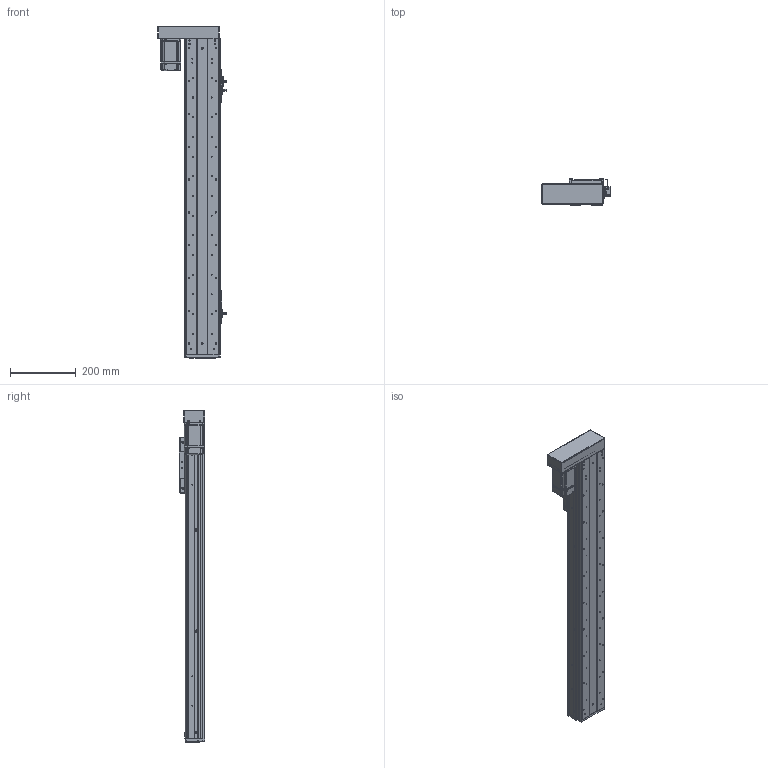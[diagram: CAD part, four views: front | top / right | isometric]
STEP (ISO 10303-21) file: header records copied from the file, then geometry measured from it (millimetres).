
FILE_DESCRIPTION (( 'STEP AP203' ), '1' );
FILE_NAME ('RY100FS-L1620-300-LK(15双轨).SLDASM_700.step', '2021-03-02T07:40:28', ( '盈信电脑' ), ( '东莞市道滘镇水果街19号' ), 'SwSTEP 2.0', 'SolidWorks 2012', '' );
FILE_SCHEMA (( 'CONFIG_CONTROL_DESIGN' ));
Products named in the file (21): RY100FS-L1620-300-LK(15邧寢).SLDASM_700; RY100FS-15邧寢蛌殏萇儂欶; 蚥薯蝶紫輸; RY100FS-15邧寢蛌殏萇儂啣; 1; RY100FS-双轨螺母座(16丝杆）; RY100FS-15邧寢蛌殏萇儂釱; 滅袉蝶14-35; RY80俋离覜茼え; 672嫖萇羲壽假蚾釱; 覜茼ん672; RY100F-詩湍揤踡輸; 棠沺沭; RY100F-詩湍揤踡謫; RY100F-綴裔啣; RY100F-詩湍幗謫粣; RY100FS-双轨铝滑块(上板）; RY100FS-300-LK15絳寢倰第奻裔啣_700; RY100F-滅鳥裔啣; RY100FS-300-LK15邧寢祥凄詩湍_700; RY100FS-300-LK15絳寢倰第菁釱_700
Assembly tree (29 placements, depth 2):
  RY100FS-L1620-300-LK(15邧寢).SLDASM_700
    RY100FS-300-LK15絳寢倰第菁釱_700
    RY100FS-300-LK15絳寢倰第奻裔啣_700  x2
    RY100FS-300-LK15邧寢祥凄詩湍_700
    RY100FS-双轨铝滑块(上板）
    RY100F-滅鳥裔啣
    棠沺沭  x2
    RY100F-詩湍幗謫粣
    RY100F-詩湍揤踡謫  x2
    RY100F-綴裔啣
    672嫖萇羲壽假蚾釱  x2
    RY80俋离覜茼え  x2
    覜茼ん672  x3
    RY100F-詩湍揤踡輸  x2
    RY100FS-双轨螺母座(16丝杆）
    RY100FS-15邧寢蛌殏萇儂釱
    滅袉蝶14-35
    1
    RY100FS-15邧寢蛌殏萇儂啣
    RY100FS-15邧寢蛌殏萇儂欶
    蚥薯蝶紫輸  x2
Bounding box: 207.3 x 78.5 x 1012 mm (x, y, z)
Volume: 2468444.8 mm3; surface area: 1051603.4 mm2
Topology: 29 solids, 29 shells, 2261 faces, 6142 edges, 3966 vertices
Faces by surface type: cylinder 1030, plane 1030, cone 168, bspline 33
Entity records: 65008 total; most frequent: CARTESIAN_POINT 13780, DIRECTION 10211, ORIENTED_EDGE 10092, EDGE_CURVE 5046, AXIS2_PLACEMENT_3D 3616, VERTEX_POINT 3314, LINE 2979, VECTOR 2979
